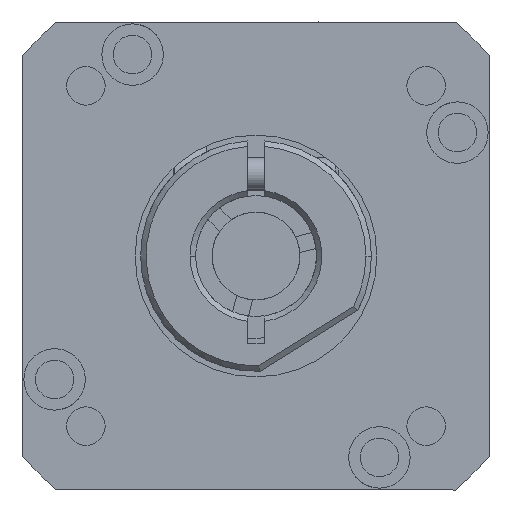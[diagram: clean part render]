
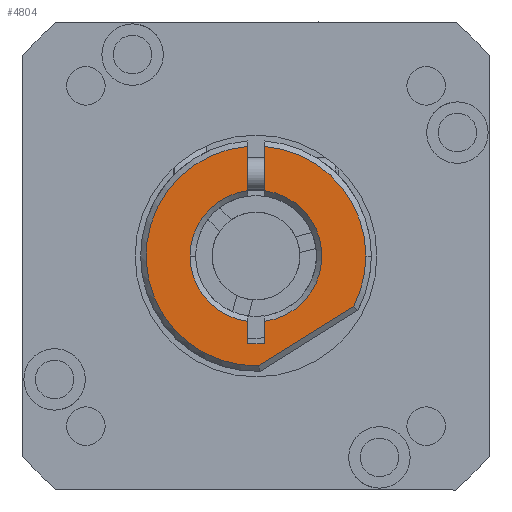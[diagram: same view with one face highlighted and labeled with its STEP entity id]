
A CAD part, left-side view. The second image highlights one B-rep face of the part: STEP entity #4804.
In plain terms, the highlighted planar face has unit normal (-1, 0, 0) as drawn and (0, -1, 0) by its records, which use the part's own axes.
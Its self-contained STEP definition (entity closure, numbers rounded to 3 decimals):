
#722 = ORIENTED_EDGE ( 'NONE', *, *, #11989, .T. ) ;
#1008 = ORIENTED_EDGE ( 'NONE', *, *, #20346, .T. ) ;
#1891 = VECTOR ( 'NONE', #8721, 1000. ) ;
#1917 = CIRCLE ( 'NONE', #22400, 6. ) ;
#2468 = AXIS2_PLACEMENT_3D ( 'NONE', #27652, #11440, #30372 ) ;
#2890 = VECTOR ( 'NONE', #9010, 1000. ) ;
#2976 = CARTESIAN_POINT ( 'NONE',  ( 8., -4., -0.75 ) ) ;
#3435 = CARTESIAN_POINT ( 'NONE',  ( 5.5, -4., 0. ) ) ;
#3449 = ORIENTED_EDGE ( 'NONE', *, *, #4172, .T. ) ;
#3991 = VERTEX_POINT ( 'NONE', #13588 ) ;
#4172 = EDGE_CURVE ( 'NONE', #35111, #4485, #26338, .T. ) ;
#4485 = VERTEX_POINT ( 'NONE', #7498 ) ;
#4688 = FACE_OUTER_BOUND ( 'NONE', #9304, .T. ) ;
#4804 = ADVANCED_FACE ( 'NONE', ( #4688 ), #8803, .T. ) ;
#4855 = DIRECTION ( 'NONE',  ( 0., -1., 0. ) ) ;
#4889 = CARTESIAN_POINT ( 'NONE',  ( 8., -4., -0.75 ) ) ;
#5137 = DIRECTION ( 'NONE',  ( 0., 1., 0. ) ) ;
#5278 = DIRECTION ( 'NONE',  ( 0., 1., 0. ) ) ;
#5293 = ORIENTED_EDGE ( 'NONE', *, *, #15824, .T. ) ;
#5371 = CIRCLE ( 'NONE', #34710, 6. ) ;
#5968 = CARTESIAN_POINT ( 'NONE',  ( 8., -4., 0. ) ) ;
#6171 = DIRECTION ( 'NONE',  ( 0., 0., -1. ) ) ;
#6263 = ORIENTED_EDGE ( 'NONE', *, *, #29239, .T. ) ;
#6276 = CARTESIAN_POINT ( 'NONE',  ( -14.792, -4., 0.75 ) ) ;
#6369 = AXIS2_PLACEMENT_3D ( 'NONE', #21113, #4855, #23820 ) ;
#6813 = CIRCLE ( 'NONE', #2468, 10. ) ;
#6858 = CARTESIAN_POINT ( 'NONE',  ( 0., -4., 0. ) ) ;
#6932 = VERTEX_POINT ( 'NONE', #33058 ) ;
#7434 = ORIENTED_EDGE ( 'NONE', *, *, #10789, .T. ) ;
#7498 = CARTESIAN_POINT ( 'NONE',  ( 0., -4., 10. ) ) ;
#7652 = AXIS2_PLACEMENT_3D ( 'NONE', #3435, #22414, #6171 ) ;
#7748 = EDGE_CURVE ( 'NONE', #18025, #34515, #20226, .T. ) ;
#7755 = CARTESIAN_POINT ( 'NONE',  ( 0., -4., -6. ) ) ;
#8058 = CIRCLE ( 'NONE', #26111, 6. ) ;
#8721 = DIRECTION ( 'NONE',  ( 0., 0., -1. ) ) ;
#8803 = PLANE ( 'NONE',  #7652 ) ;
#8942 = CARTESIAN_POINT ( 'NONE',  ( 9.997, -4., 0.23 ) ) ;
#9010 = DIRECTION ( 'NONE',  ( 1., 0., 0. ) ) ;
#9020 = AXIS2_PLACEMENT_3D ( 'NONE', #14401, #33381, #17135 ) ;
#9304 = EDGE_LOOP ( 'NONE', ( #30747, #6263, #33178, #722, #1008, #7434, #25971, #12753, #3449, #10029, #5293, #17266 ) ) ;
#9570 = CARTESIAN_POINT ( 'NONE',  ( -14.792, -4., 0.75 ) ) ;
#9595 = DIRECTION ( 'NONE',  ( 0., 0., -1. ) ) ;
#9969 = CARTESIAN_POINT ( 'NONE',  ( 8., -4., -0.75 ) ) ;
#10029 = ORIENTED_EDGE ( 'NONE', *, *, #22816, .T. ) ;
#10789 = EDGE_CURVE ( 'NONE', #3991, #6932, #21700, .T. ) ;
#10981 = LINE ( 'NONE', #6276, #2890 ) ;
#11440 = DIRECTION ( 'NONE',  ( 0., -1., 0. ) ) ;
#11588 = VERTEX_POINT ( 'NONE', #7755 ) ;
#11784 = EDGE_CURVE ( 'NONE', #6932, #16139, #6813, .T. ) ;
#11989 = EDGE_CURVE ( 'NONE', #34515, #11588, #8058, .T. ) ;
#12297 = DIRECTION ( 'NONE',  ( 1., 0., 0. ) ) ;
#12753 = ORIENTED_EDGE ( 'NONE', *, *, #22963, .T. ) ;
#13588 = CARTESIAN_POINT ( 'NONE',  ( -5.953, -4., -0.75 ) ) ;
#13653 = VECTOR ( 'NONE', #34659, 1000. ) ;
#14319 = CARTESIAN_POINT ( 'NONE',  ( 4.589, -4., 8.885 ) ) ;
#14401 = CARTESIAN_POINT ( 'NONE',  ( 0., -4., 0. ) ) ;
#14847 = VERTEX_POINT ( 'NONE', #17815 ) ;
#15824 = EDGE_CURVE ( 'NONE', #22638, #25301, #18875, .T. ) ;
#16139 = VERTEX_POINT ( 'NONE', #8942 ) ;
#17135 = DIRECTION ( 'NONE',  ( 0., 0., 1. ) ) ;
#17266 = ORIENTED_EDGE ( 'NONE', *, *, #27686, .T. ) ;
#17815 = CARTESIAN_POINT ( 'NONE',  ( 5.953, -4., 0.75 ) ) ;
#18025 = VERTEX_POINT ( 'NONE', #2976 ) ;
#18875 = LINE ( 'NONE', #9570, #25232 ) ;
#19439 = CARTESIAN_POINT ( 'NONE',  ( 9.997, -4., 0.23 ) ) ;
#19558 = DIRECTION ( 'NONE',  ( -0.53, 0., 0.848 ) ) ;
#20082 = LINE ( 'NONE', #19439, #33670 ) ;
#20226 = LINE ( 'NONE', #9969, #21060 ) ;
#20346 = EDGE_CURVE ( 'NONE', #11588, #3991, #5371, .T. ) ;
#20760 = DIRECTION ( 'NONE',  ( -1., 0., 0. ) ) ;
#21060 = VECTOR ( 'NONE', #20760, 1000. ) ;
#21113 = CARTESIAN_POINT ( 'NONE',  ( 0., -4., 0. ) ) ;
#21406 = CARTESIAN_POINT ( 'NONE',  ( 0., -4., 0. ) ) ;
#21544 = CARTESIAN_POINT ( 'NONE',  ( 0., -4., 0. ) ) ;
#21700 = LINE ( 'NONE', #4889, #13653 ) ;
#22400 = AXIS2_PLACEMENT_3D ( 'NONE', #21406, #5137, #24107 ) ;
#22414 = DIRECTION ( 'NONE',  ( 0., -1., 0. ) ) ;
#22630 = CIRCLE ( 'NONE', #6369, 10. ) ;
#22638 = VERTEX_POINT ( 'NONE', #33953 ) ;
#22816 = EDGE_CURVE ( 'NONE', #4485, #22638, #22630, .T. ) ;
#22963 = EDGE_CURVE ( 'NONE', #16139, #35111, #20082, .T. ) ;
#23514 = CARTESIAN_POINT ( 'NONE',  ( -5.953, -4., 0.75 ) ) ;
#23531 = LINE ( 'NONE', #5968, #1891 ) ;
#23820 = DIRECTION ( 'NONE',  ( 0., 0., 1. ) ) ;
#24107 = DIRECTION ( 'NONE',  ( 0., 0., -1. ) ) ;
#24233 = DIRECTION ( 'NONE',  ( 0., 0., -1. ) ) ;
#25232 = VECTOR ( 'NONE', #12297, 1000. ) ;
#25301 = VERTEX_POINT ( 'NONE', #23514 ) ;
#25814 = DIRECTION ( 'NONE',  ( 0., 1., 0. ) ) ;
#25971 = ORIENTED_EDGE ( 'NONE', *, *, #11784, .T. ) ;
#26111 = AXIS2_PLACEMENT_3D ( 'NONE', #21544, #5278, #24233 ) ;
#26338 = CIRCLE ( 'NONE', #9020, 10. ) ;
#27652 = CARTESIAN_POINT ( 'NONE',  ( 0., -4., 0. ) ) ;
#27686 = EDGE_CURVE ( 'NONE', #25301, #14847, #1917, .T. ) ;
#29239 = EDGE_CURVE ( 'NONE', #33669, #18025, #23531, .T. ) ;
#30372 = DIRECTION ( 'NONE',  ( 0., 0., 1. ) ) ;
#30449 = CARTESIAN_POINT ( 'NONE',  ( 5.953, -4., -0.75 ) ) ;
#30747 = ORIENTED_EDGE ( 'NONE', *, *, #34303, .T. ) ;
#33058 = CARTESIAN_POINT ( 'NONE',  ( -9.972, -4., -0.75 ) ) ;
#33125 = CARTESIAN_POINT ( 'NONE',  ( 8., -4., 0.75 ) ) ;
#33178 = ORIENTED_EDGE ( 'NONE', *, *, #7748, .T. ) ;
#33381 = DIRECTION ( 'NONE',  ( 0., -1., 0. ) ) ;
#33669 = VERTEX_POINT ( 'NONE', #33125 ) ;
#33670 = VECTOR ( 'NONE', #19558, 1000. ) ;
#33953 = CARTESIAN_POINT ( 'NONE',  ( -9.972, -4., 0.75 ) ) ;
#34303 = EDGE_CURVE ( 'NONE', #14847, #33669, #10981, .T. ) ;
#34515 = VERTEX_POINT ( 'NONE', #30449 ) ;
#34659 = DIRECTION ( 'NONE',  ( -1., 0., 0. ) ) ;
#34710 = AXIS2_PLACEMENT_3D ( 'NONE', #6858, #25814, #9595 ) ;
#35111 = VERTEX_POINT ( 'NONE', #14319 ) ;
